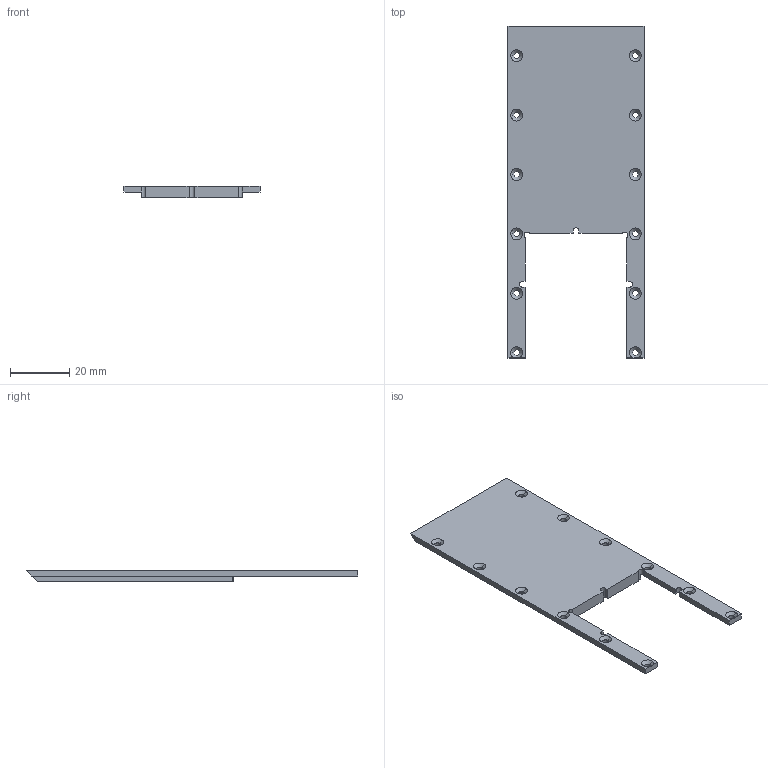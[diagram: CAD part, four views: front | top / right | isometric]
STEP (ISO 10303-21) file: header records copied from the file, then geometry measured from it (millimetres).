
FILE_DESCRIPTION (( 'STEP AP214' ), '1' );
FILE_NAME ('SC43.STEP', '2016-02-26T17:32:39', ( '' ), ( '' ), 'SwSTEP 2.0', 'SolidWorks 2012', '' );
FILE_SCHEMA (( 'AUTOMOTIVE_DESIGN' ));
Length unit declared in the file: millimetre
Products named in the file (1): SC43
Bounding box: 45.8 x 111.8 x 4 mm (x, y, z)
Volume: 11684.4 mm3; surface area: 8518.4 mm2
Topology: 1 solids, 1 shells, 79 faces, 212 edges, 133 vertices
Faces by surface type: cylinder 29, cone 26, plane 24
Entity records: 2572 total; most frequent: DIRECTION 460, CARTESIAN_POINT 443, ORIENTED_EDGE 424, EDGE_CURVE 212, AXIS2_PLACEMENT_3D 170, VERTEX_POINT 133, VECTOR 120, LINE 120
